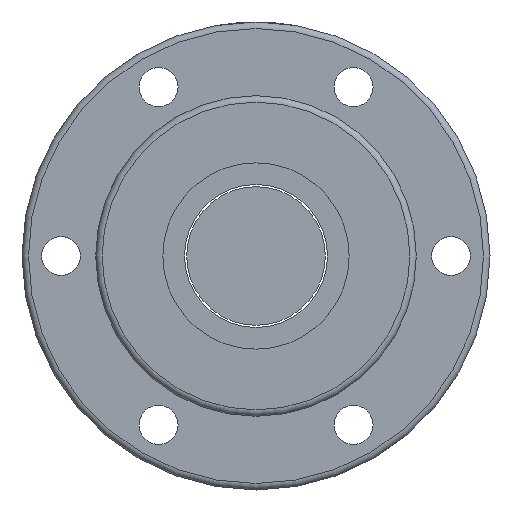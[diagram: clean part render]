
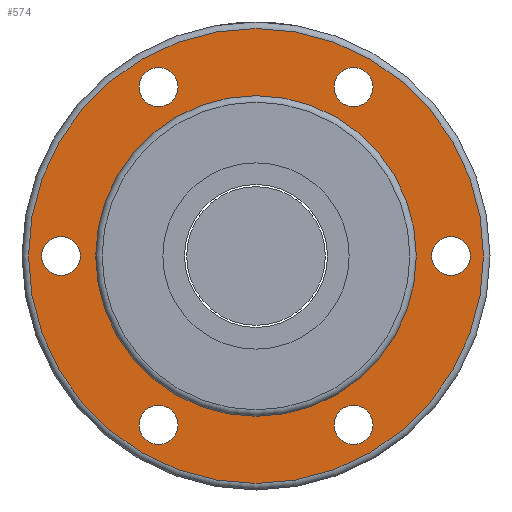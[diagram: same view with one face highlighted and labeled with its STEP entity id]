
A CAD part, left-side view. The second image highlights one B-rep face of the part: STEP entity #574.
In plain terms, the highlighted planar face has unit normal (-1, 0, 0).
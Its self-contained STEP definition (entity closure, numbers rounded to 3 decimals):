
#75=PLANE('',#683);
#151=ORIENTED_EDGE('',*,*,#229,.F.);
#152=ORIENTED_EDGE('',*,*,#233,.T.);
#153=ORIENTED_EDGE('',*,*,#228,.F.);
#154=ORIENTED_EDGE('',*,*,#224,.F.);
#155=ORIENTED_EDGE('',*,*,#220,.F.);
#156=ORIENTED_EDGE('',*,*,#216,.F.);
#157=ORIENTED_EDGE('',*,*,#212,.F.);
#158=ORIENTED_EDGE('',*,*,#208,.F.);
#208=EDGE_CURVE('',#263,#263,#309,.T.);
#212=EDGE_CURVE('',#267,#267,#313,.T.);
#216=EDGE_CURVE('',#271,#271,#317,.T.);
#220=EDGE_CURVE('',#275,#275,#321,.T.);
#224=EDGE_CURVE('',#279,#279,#325,.T.);
#228=EDGE_CURVE('',#283,#283,#329,.T.);
#229=EDGE_CURVE('',#284,#284,#330,.T.);
#233=EDGE_CURVE('',#288,#288,#334,.T.);
#263=VERTEX_POINT('',#943);
#267=VERTEX_POINT('',#954);
#271=VERTEX_POINT('',#965);
#275=VERTEX_POINT('',#976);
#279=VERTEX_POINT('',#987);
#283=VERTEX_POINT('',#998);
#284=VERTEX_POINT('',#1001);
#288=VERTEX_POINT('',#1014);
#309=CIRCLE('',#636,4.5);
#313=CIRCLE('',#643,4.5);
#317=CIRCLE('',#650,4.5);
#321=CIRCLE('',#657,4.5);
#325=CIRCLE('',#664,4.5);
#329=CIRCLE('',#671,4.5);
#330=CIRCLE('',#673,52.5);
#334=CIRCLE('',#682,37.);
#406=EDGE_LOOP('',(#151));
#407=EDGE_LOOP('',(#152));
#408=EDGE_LOOP('',(#153));
#409=EDGE_LOOP('',(#154));
#410=EDGE_LOOP('',(#155));
#411=EDGE_LOOP('',(#156));
#412=EDGE_LOOP('',(#157));
#413=EDGE_LOOP('',(#158));
#497=FACE_BOUND('',#406,.T.);
#498=FACE_BOUND('',#407,.T.);
#499=FACE_BOUND('',#408,.T.);
#500=FACE_BOUND('',#409,.T.);
#501=FACE_BOUND('',#410,.T.);
#502=FACE_BOUND('',#411,.T.);
#503=FACE_BOUND('',#412,.T.);
#504=FACE_BOUND('',#413,.T.);
#574=ADVANCED_FACE('',(#497,#498,#499,#500,#501,#502,#503,#504),#75,.T.);
#636=AXIS2_PLACEMENT_3D('',#942,#750,#751);
#643=AXIS2_PLACEMENT_3D('',#953,#764,#765);
#650=AXIS2_PLACEMENT_3D('',#964,#778,#779);
#657=AXIS2_PLACEMENT_3D('',#975,#792,#793);
#664=AXIS2_PLACEMENT_3D('',#986,#806,#807);
#671=AXIS2_PLACEMENT_3D('',#997,#820,#821);
#673=AXIS2_PLACEMENT_3D('',#1000,#824,#825);
#682=AXIS2_PLACEMENT_3D('',#1013,#842,#843);
#683=AXIS2_PLACEMENT_3D('',#1015,#844,#845);
#750=DIRECTION('',(-1.,0.,0.));
#751=DIRECTION('',(0.,-1.,0.));
#764=DIRECTION('',(-1.,0.,0.));
#765=DIRECTION('',(0.,-1.,0.));
#778=DIRECTION('',(-1.,0.,0.));
#779=DIRECTION('',(0.,-1.,0.));
#792=DIRECTION('',(-1.,0.,0.));
#793=DIRECTION('',(0.,-1.,0.));
#806=DIRECTION('',(-1.,0.,0.));
#807=DIRECTION('',(0.,-1.,0.));
#820=DIRECTION('',(-1.,0.,0.));
#821=DIRECTION('',(0.,-1.,0.));
#824=DIRECTION('',(1.,0.,0.));
#825=DIRECTION('',(0.,1.,0.));
#842=DIRECTION('',(1.,0.,0.));
#843=DIRECTION('',(0.,1.,0.));
#844=DIRECTION('',(-1.,0.,0.));
#845=DIRECTION('',(0.,1.,0.));
#942=CARTESIAN_POINT('',(-32.,45.,0.));
#943=CARTESIAN_POINT('',(-32.,40.5,0.));
#953=CARTESIAN_POINT('',(-32.,-45.,0.));
#954=CARTESIAN_POINT('',(-32.,-49.5,0.));
#964=CARTESIAN_POINT('',(-32.,22.5,-38.971));
#965=CARTESIAN_POINT('',(-32.,18.,-38.971));
#975=CARTESIAN_POINT('',(-32.,-22.5,-38.971));
#976=CARTESIAN_POINT('',(-32.,-27.,-38.971));
#986=CARTESIAN_POINT('',(-32.,-22.5,38.971));
#987=CARTESIAN_POINT('',(-32.,-27.,38.971));
#997=CARTESIAN_POINT('',(-32.,22.5,38.971));
#998=CARTESIAN_POINT('',(-32.,18.,38.971));
#1000=CARTESIAN_POINT('',(-32.,0.,0.));
#1001=CARTESIAN_POINT('',(-32.,52.5,0.));
#1013=CARTESIAN_POINT('',(-32.,0.,0.));
#1014=CARTESIAN_POINT('',(-32.,37.,0.));
#1015=CARTESIAN_POINT('',(-32.,44.75,0.));
